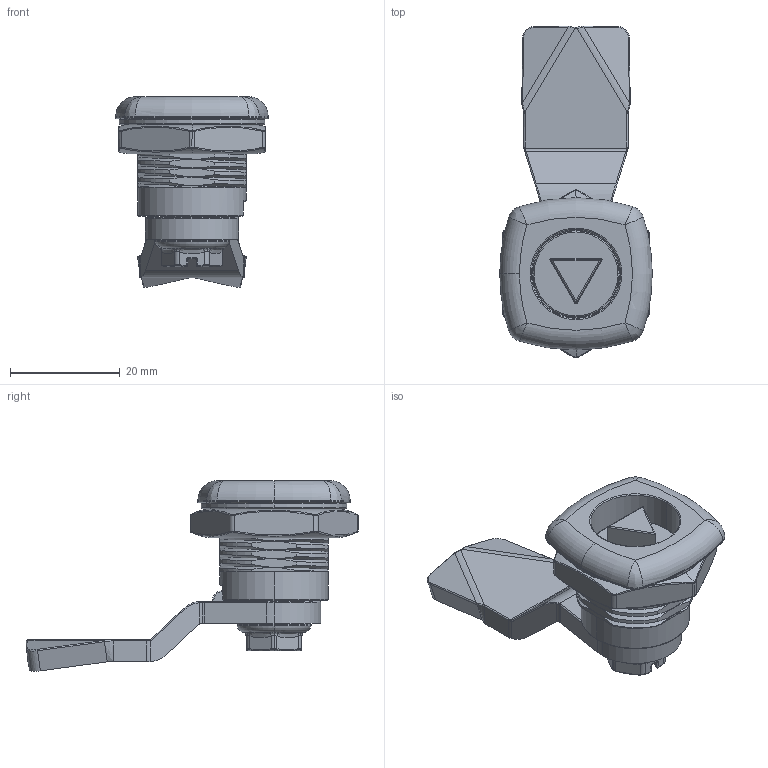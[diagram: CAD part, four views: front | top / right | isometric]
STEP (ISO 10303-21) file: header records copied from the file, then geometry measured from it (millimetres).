
FILE_DESCRIPTION (( 'STEP AP214' ), '1' );
FILE_NAME ('DLZ-704-3.STEP', '2019-02-22T07:15:38', ( '' ), ( '' ), 'SwSTEP 2.0', 'SolidWorks 2010', '' );
FILE_SCHEMA (( 'AUTOMOTIVE_DESIGN' ));
Length unit declared in the file: millimetre
Products named in the file (7): M6螺絲; DLZ-704-3; 六角螺母; 防水墊片; 基座; DS1B4507-S; 鎖芯
Assembly tree (6 placements, depth 2):
  DLZ-704-3
    基座
    防水墊片
    六角螺母
    DS1B4507-S
    鎖芯
    M6螺絲
Bounding box: 27.8 x 60.55 x 34.74 mm (x, y, z)
Volume: 11879.2 mm3; surface area: 10414.9 mm2
Topology: 6 solids, 6 shells, 772 faces, 1841 edges, 1057 vertices
Faces by surface type: cylinder 303, torus 158, plane 154, bspline 113, sphere 44
Entity records: 39634 total; most frequent: CARTESIAN_POINT 22488, ORIENTED_EDGE 3616, DIRECTION 3489, EDGE_CURVE 1808, AXIS2_PLACEMENT_3D 1462, VERTEX_POINT 1056, CIRCLE 794, EDGE_LOOP 788
